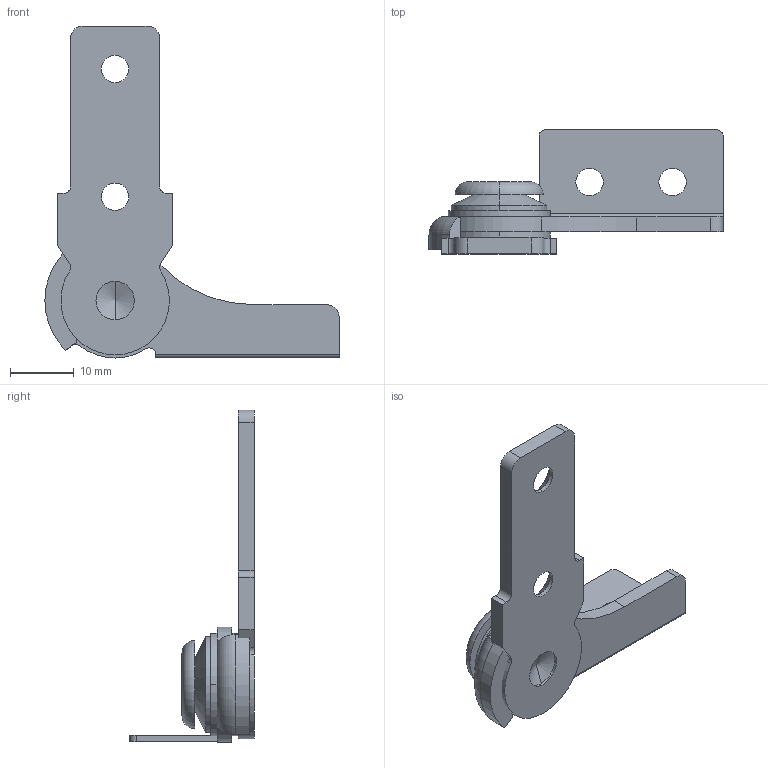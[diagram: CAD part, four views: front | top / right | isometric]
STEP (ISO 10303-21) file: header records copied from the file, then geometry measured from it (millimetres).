
FILE_DESCRIPTION (( 'STEP AP203' ), '1' );
FILE_NAME ('XG11-122-20R.STEP', '2025-05-23T06:47:01', ( '微软用户' ), ( '微软中国' ), 'SwSTEP 2.0', 'SolidWorks 2024', '' );
FILE_SCHEMA (( 'CONFIG_CONTROL_DESIGN' ));
Length unit declared in the file: millimetre
Products named in the file (3): XG11-122-20R; XG11-122-20板
Assembly tree (2 placements, depth 2):
  XG11-122-20R
    XG11-122-20板
    XG11-122-20R
Bounding box: 46.09 x 19.5 x 52 mm (x, y, z)
Volume: 4491.7 mm3; surface area: 4432.8 mm2
Topology: 2 solids, 2 shells, 74 faces, 187 edges, 120 vertices
Faces by surface type: cylinder 36, plane 27, cone 8, torus 3
Entity records: 2580 total; most frequent: DIRECTION 423, CARTESIAN_POINT 418, ORIENTED_EDGE 370, EDGE_CURVE 185, AXIS2_PLACEMENT_3D 163, VERTEX_POINT 120, VECTOR 97, LINE 97
